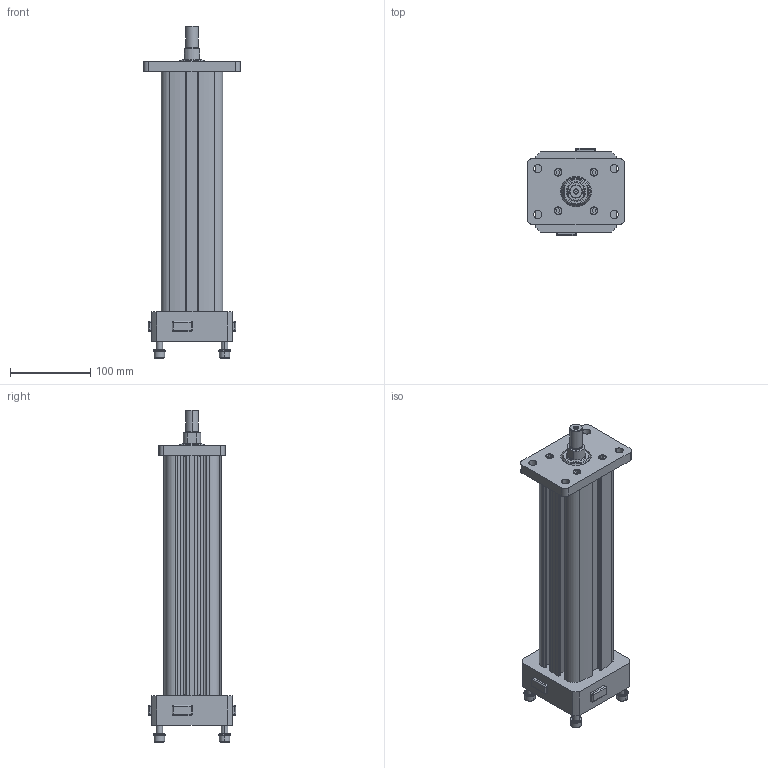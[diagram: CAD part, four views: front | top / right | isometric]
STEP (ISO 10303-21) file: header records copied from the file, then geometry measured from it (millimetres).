
FILE_DESCRIPTION (( 'STEP AP203' ), '1' );
FILE_NAME ('I30-06xx-FA-ISC-xx4.STEP', '2011-03-28T19:46:57', ( 'Exlar' ), ( 'Exlar' ), 'SwSTEP 2.0', 'SolidWorks 2010', '' );
FILE_SCHEMA (( 'CONFIG_CONTROL_DESIGN' ));
Length unit declared in the file: inch
Products named in the file (23): 25925_PART3; 25925_PART2; 25925_PART1; 26887; 26834; 26584; 28662_28662; 27638; 32869; I30-06xx-FA-ISC-xx4; 26689; 27656; 27418; 25925; 30098; 30573; 30542_Default<As Machined>; 25943; 33678; 12463; 19188; 33680; 29364
Assembly tree (45 placements, depth 3):
  I30-06xx-FA-ISC-xx4
    12463  x8
    25925  x2
      25925_PART3
      25925_PART2
      25925_PART1
    26689
    29364  x4
    27656
    27418
    26887
    28662_28662
    30098
      30542_Default<As Machined>
      30573
    25943
    32869  x4
    27638
    33678
    33680  x4
    26584
    26834
    19188
Bounding box: 120.65 x 108.64 x 413.93 mm (x, y, z)
Volume: 1289317.9 mm3; surface area: 443446.3 mm2
Topology: 52 solids, 52 shells, 1547 faces, 3686 edges, 2248 vertices
Faces by surface type: plane 567, cylinder 536, cone 242, torus 134, sphere 44, bspline 24
Entity records: 31520 total; most frequent: CARTESIAN_POINT 5624, DIRECTION 5187, ORIENTED_EDGE 4496, EDGE_CURVE 2248, AXIS2_PLACEMENT_3D 2020, VERTEX_POINT 1401, VECTOR 1147, LINE 1147
